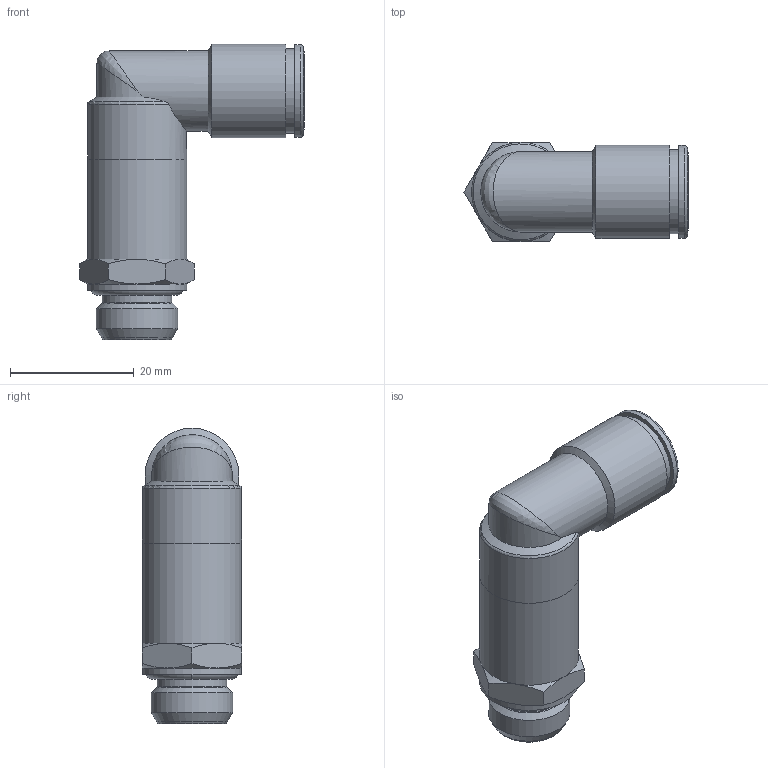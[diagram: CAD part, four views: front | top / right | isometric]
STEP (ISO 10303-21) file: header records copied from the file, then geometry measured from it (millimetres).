
FILE_DESCRIPTION(('Bauteilbeschreibung','HiCAD-Model','HiCAD-STEP-TRANSLATION','Bauteilbeschreibung'),'2;1');
FILE_NAME('B:/ABGLEICH/ZEICHNUNGEN/STEP FÜR INTERNET/STEP/IPSO 026/202608_IPSO_026_10_1-4.STP','2012-02-20T17:19:16+00:00',('Konstrukteur'),('Konstrukteur Firma GmbH'),' HiCAD neXt 2008, Step 3.1.1401.2J ','HiCAD neXt 2008','confidential');
FILE_SCHEMA(('AUTOMOTIVE_DESIGN { 1 2 10303 214 0 1 1 1 }'));
Length unit declared in the file: millimetre
Products named in the file (7): A02608_IPSO_026_10_1_4; OR 11_11X1_78; DR10_N; R202208_N; A14616; A146160; G 1_4
Assembly tree (6 placements, depth 3):
  A02608_IPSO_026_10_1_4
    OR 11_11X1_78
    DR10_N
    R202208_N
    A14616
    A146160
      G 1_4
Bounding box: 36.24 x 16 x 47.75 mm (x, y, z)
Volume: 6979.2 mm3; surface area: 7485.1 mm2
Topology: 5 solids, 5 shells, 83 faces, 183 edges, 109 vertices
Faces by surface type: cone 31, cylinder 24, plane 19, torus 8, bspline 1
Full cylindrical faces by diameter (mm): 8 x2, 10.2 x2, 11.2 x1, 11.445 x2, 12.2 x2, 12.3 x1, 13 x2, 13.157 x1, 13.5 x2, 13.6 x1, 13.7 x1, 15 x1, 15.1 x1, 16 x3
Entity records: 3663 total; most frequent: CARTESIAN_POINT 1441, DIRECTION 354, ORIENTED_EDGE 244, AXIS2_PLACEMENT_3D 173, EDGE_LOOP 137, EDGE_CURVE 122, COLOUR_RGB 108, PRESENTATION_STYLE_ASSIGNMENT 108
